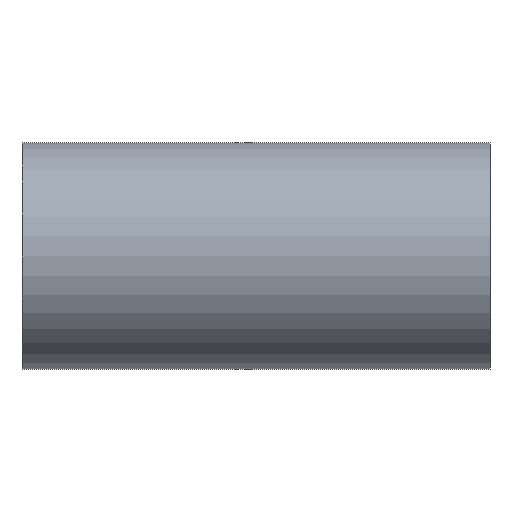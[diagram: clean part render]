
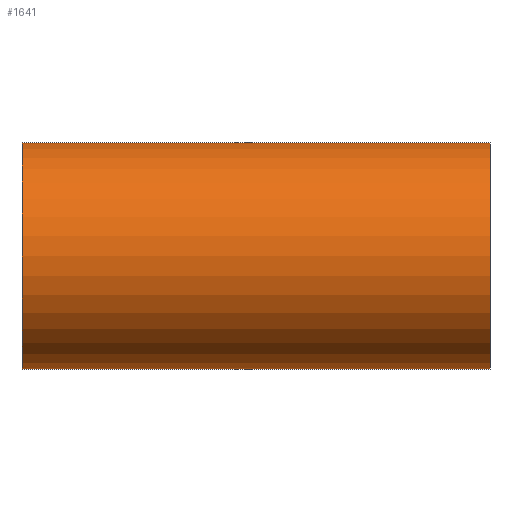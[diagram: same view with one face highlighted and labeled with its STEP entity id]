
A CAD part, front view. The second image highlights one B-rep face of the part: STEP entity #1641.
In plain terms, the highlighted cylindrical face has radius 50.8 mm (diameter 101.6 mm), a partial arc.
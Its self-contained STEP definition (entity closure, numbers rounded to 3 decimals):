
#98 = CARTESIAN_POINT ( 'NONE',  ( -104.8, 0., 50.8 ) ) ;
#163 = EDGE_CURVE ( 'NONE', #806, #285, #482, .T. ) ;
#193 = ORIENTED_EDGE ( 'NONE', *, *, #163, .F. ) ;
#285 = VERTEX_POINT ( 'NONE', #1908 ) ;
#389 = CIRCLE ( 'NONE', #748, 50.8 ) ;
#425 = CARTESIAN_POINT ( 'NONE',  ( -104.8, 0., 50.8 ) ) ;
#427 = CYLINDRICAL_SURFACE ( 'NONE', #732, 50.8 ) ;
#430 = VERTEX_POINT ( 'NONE', #1341 ) ;
#452 = FACE_OUTER_BOUND ( 'NONE', #883, .T. ) ;
#482 = LINE ( 'NONE', #425, #1515 ) ;
#573 = DIRECTION ( 'NONE',  ( 1., 0., 0. ) ) ;
#621 = ORIENTED_EDGE ( 'NONE', *, *, #697, .T. ) ;
#697 = EDGE_CURVE ( 'NONE', #430, #1305, #1468, .T. ) ;
#732 = AXIS2_PLACEMENT_3D ( 'NONE', #988, #1037, #844 ) ;
#748 = AXIS2_PLACEMENT_3D ( 'NONE', #1072, #1098, #1105 ) ;
#806 = VERTEX_POINT ( 'NONE', #98 ) ;
#808 = CARTESIAN_POINT ( 'NONE',  ( 104.8, 0., 0. ) ) ;
#844 = DIRECTION ( 'NONE',  ( 0., 0., -1. ) ) ;
#883 = EDGE_LOOP ( 'NONE', ( #193, #1160, #621, #1324 ) ) ;
#969 = EDGE_CURVE ( 'NONE', #806, #430, #389, .T. ) ;
#983 = DIRECTION ( 'NONE',  ( 0., 0., -1. ) ) ;
#988 = CARTESIAN_POINT ( 'NONE',  ( -104.8, 0., 0. ) ) ;
#1037 = DIRECTION ( 'NONE',  ( 1., 0., 0. ) ) ;
#1072 = CARTESIAN_POINT ( 'NONE',  ( -104.8, 0., 0. ) ) ;
#1098 = DIRECTION ( 'NONE',  ( 1., 0., 0. ) ) ;
#1105 = DIRECTION ( 'NONE',  ( 0., 0., -1. ) ) ;
#1145 = AXIS2_PLACEMENT_3D ( 'NONE', #808, #1912, #983 ) ;
#1160 = ORIENTED_EDGE ( 'NONE', *, *, #969, .T. ) ;
#1305 = VERTEX_POINT ( 'NONE', #1761 ) ;
#1324 = ORIENTED_EDGE ( 'NONE', *, *, #1906, .T. ) ;
#1341 = CARTESIAN_POINT ( 'NONE',  ( -104.8, 0., -50.8 ) ) ;
#1358 = CARTESIAN_POINT ( 'NONE',  ( -104.8, 0., -50.8 ) ) ;
#1377 = DIRECTION ( 'NONE',  ( 1., 0., 0. ) ) ;
#1443 = VECTOR ( 'NONE', #1377, 1000. ) ;
#1468 = LINE ( 'NONE', #1358, #1443 ) ;
#1515 = VECTOR ( 'NONE', #573, 1000. ) ;
#1626 = CIRCLE ( 'NONE', #1145, 50.8 ) ;
#1641 = ADVANCED_FACE ( 'NONE', ( #452 ), #427, .T. ) ;
#1761 = CARTESIAN_POINT ( 'NONE',  ( 104.8, 0., -50.8 ) ) ;
#1906 = EDGE_CURVE ( 'NONE', #1305, #285, #1626, .T. ) ;
#1908 = CARTESIAN_POINT ( 'NONE',  ( 104.8, 0., 50.8 ) ) ;
#1912 = DIRECTION ( 'NONE',  ( -1., 0., 0. ) ) ;
